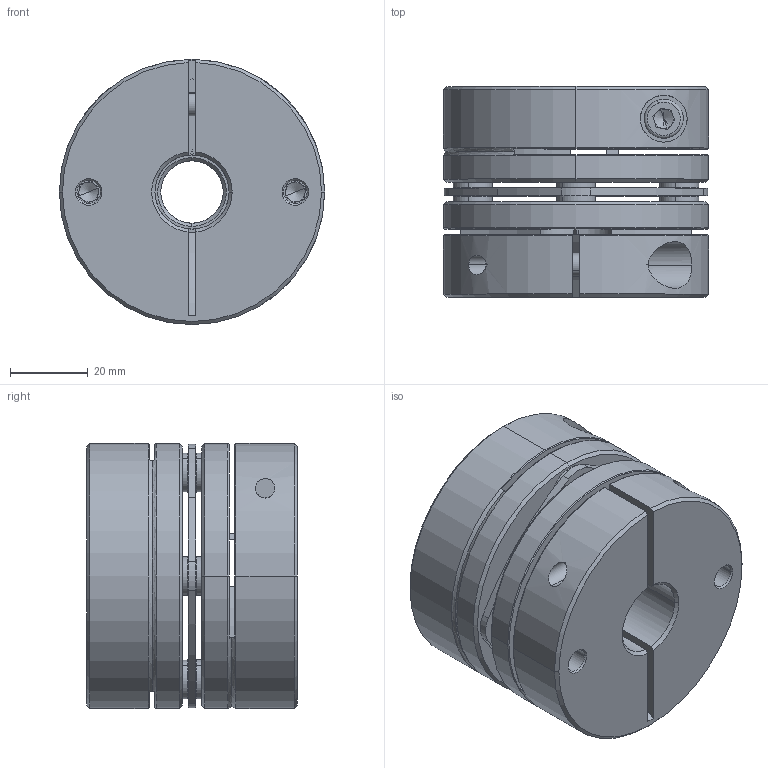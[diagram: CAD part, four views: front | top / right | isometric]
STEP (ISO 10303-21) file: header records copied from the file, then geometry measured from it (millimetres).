
FILE_DESCRIPTION (( 'STEP AP203' ), '1' );
FILE_NAME ('LD1-D68-16-19.STEP', '2021-10-26T07:48:31', ( '' ), ( '' ), 'SwSTEP 2.0', 'SolidWorks 2018', '' );
FILE_SCHEMA (( 'CONFIG_CONTROL_DESIGN' ));
Length unit declared in the file: millimetre
Products named in the file (2): 錨璃101^LD1-D68; LD1-D68-16-19
Assembly tree (1 placements, depth 2):
  LD1-D68-16-19
    錨璃101^LD1-D68
Bounding box: 68 x 54 x 68 mm (x, y, z)
Volume: 154261.5 mm3; surface area: 47152.3 mm2
Topology: 1 solids, 15 shells, 447 faces, 1075 edges, 660 vertices
Faces by surface type: cylinder 163, plane 140, cone 122, torus 22
Entity records: 13615 total; most frequent: CARTESIAN_POINT 2636, DIRECTION 2463, ORIENTED_EDGE 2118, EDGE_CURVE 1059, AXIS2_PLACEMENT_3D 999, VERTEX_POINT 660, CIRCLE 548, EDGE_LOOP 527
